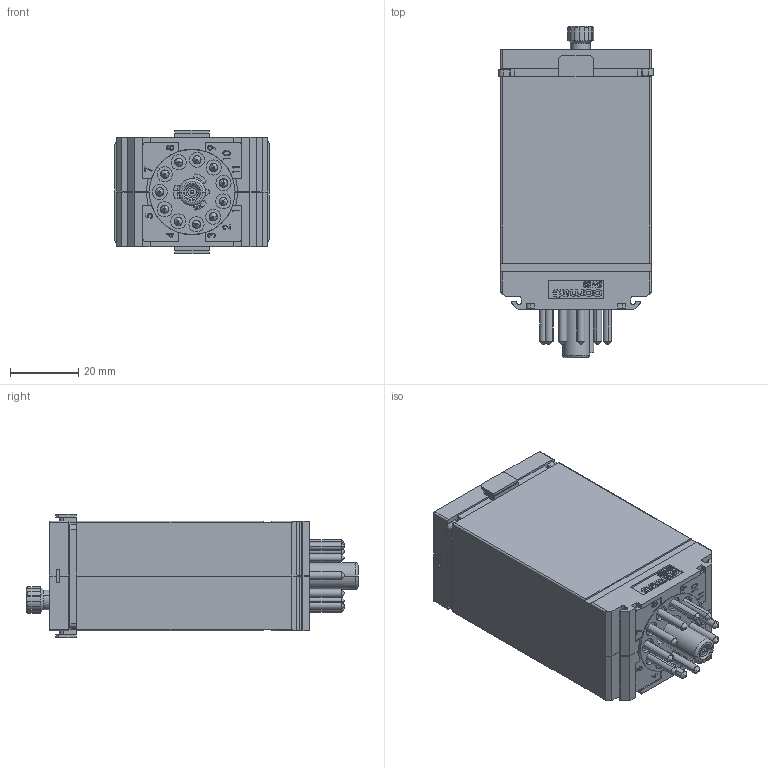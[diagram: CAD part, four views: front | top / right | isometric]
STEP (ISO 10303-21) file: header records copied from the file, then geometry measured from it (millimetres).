
FILE_DESCRIPTION (( 'STEP AP203' ), '1' );
FILE_NAME ('Timer_C55C56.STEP', '2018-05-15T06:24:58', ( '' ), ( '' ), 'SwSTEP 2.0', 'SolidWorks 2016', '' );
FILE_SCHEMA (( 'CONFIG_CONTROL_DESIGN' ));
Length unit declared in the file: millimetre
Products named in the file (11): Frontplate C50_86000-40-32-xxx; S6_86000-19-32-xxx; nob; ZU Gehause s6_86000-05-32-xxx; Timer_C55C56; 86000-12-32-403; Housing_0028_86000-007-32-xxx; BET C50 V2_86000-27-32-xxx; Scroller_0002_86000-300-32-001; BZS S6_86000-35-32-xxx; Kontakt stift
Assembly tree (24 placements, depth 2):
  Timer_C55C56
    ZU Gehause s6_86000-05-32-xxx
    Kontakt stift  x11
    Housing_0028_86000-007-32-xxx  x2
    BET C50 V2_86000-27-32-xxx
    BZS S6_86000-35-32-xxx  x2
    Frontplate C50_86000-40-32-xxx
    S6_86000-19-32-xxx  x2
    Scroller_0002_86000-300-32-001
    86000-12-32-403  x2
    nob
Bounding box: 45.3 x 97.07 x 36 mm (x, y, z)
Volume: 24416.1 mm3; surface area: 36667.3 mm2
Topology: 26 solids, 26 shells, 1709 faces, 4471 edges, 2913 vertices
Faces by surface type: plane 1059, bspline 274, cylinder 274, cone 90, torus 9, sphere 3
Entity records: 43496 total; most frequent: CARTESIAN_POINT 14866, ORIENTED_EDGE 5914, DIRECTION 5049, EDGE_CURVE 2957, VECTOR 2035, LINE 2035, VERTEX_POINT 1923, AXIS2_PLACEMENT_3D 1507
